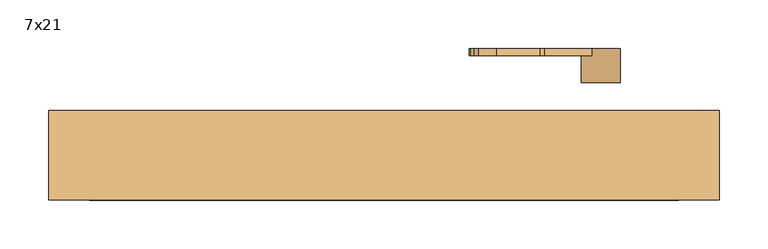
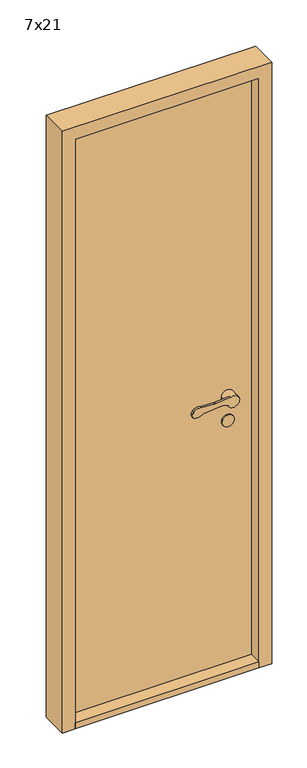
"""IFC4 building model written with IfcOpenShell, lengths in millimetres: door geometry, Innerdør Slett (Diplomat) : 7x21."""

from ifc_helpers import new_model, si_unit, point, frame, frame_2d, origin, origin_with_axes, place, context, project, spatial, polyline, circle_curve, trimmed, segment, composite_curve, outline, extrude, source, transform, mapped, element, save
from ifc_brep_helpers import plane_surface, cylinder_surface, revolved_surface, advanced_brep


def door_7x21_15e86ef2(model_context):
    return source(origin(), model_context, "Body", "SolidModel", [
        advanced_brep(
        [(243.9611305, -49.0, 949.1175955), (258.3841161, -49.0, 942.6204086), (296.379633, -49.0, 951.3474568), (267.2687793, -49.0, 969.1517356), (218.6891233, -49.0, 964.26032), (213.6202158, -49.0, 964.1804415), (168.8963175, -49.0, 967.2639242), (150.3175669, -49.0, 964.8810513), (145.505009, -49.0, 959.9624074), (141.8691983, -49.0, 951.8913379), (146.721536, -49.0, 938.7393398), (176.0476109, -49.0, 943.6260011), (238.8520664, -49.0, 949.9496913), (218.6891233, -41.8915284, 964.26032), (267.2687793, -41.8915284, 969.1517356), (256.379633, -41.8915284, 951.3474568), (258.3841161, -41.8915284, 942.6204086), (243.9611305, -41.8915284, 949.1175955), (238.8520664, -41.8915284, 949.9496913), (176.0476109, -41.8915284, 943.6260011), (146.721536, -41.8915284, 938.7393398), (141.8691983, -41.8915284, 951.8913379), (145.505009, -41.8915284, 959.9624074), (150.3175669, -41.8915284, 964.8810513), (168.8963175, -41.8915284, 967.2639242), (213.6202158, -41.8915284, 964.1804415), (296.379633, -14.0, 951.3474568), (256.379633, -14.0, 951.3474568)],
        [
            (0, 1),
            (1, 2, circle_curve(frame((276.379633, -49.0, 951.3474568), z_axis=(0.0, -1.0, 0.0), x_axis=(-1.0, 0.0, 0.0)), 20.0)),
            (2, 3, circle_curve(frame((276.379633, -49.0, 951.3474568), z_axis=(0.0, -1.0, 0.0), x_axis=(-1.0, 0.0, 0.0)), 20.0)),
            (3, 4),
            (4, 5, circle_curve(frame((215.683663, -49.0, 994.1093938), z_axis=(0.0, 1.0, 0.0), x_axis=(-0.9949691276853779, 0.0, -0.10018200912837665)), 30.0)),
            (5, 6),
            (6, 7, circle_curve(frame((163.2326797, -49.0, 937.8033877), z_axis=(0.0, -1.0, 0.0), x_axis=(-0.9949691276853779, 0.0, -0.10018200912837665)), 30.0)),
            (7, 8, circle_curve(frame((154.6226045, -49.0, 955.8551634), z_axis=(0.0, -1.0, 0.0), x_axis=(-0.9949691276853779, 0.0, -0.10018200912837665)), 10.0)),
            (8, 9),
            (9, 10, circle_curve(frame((150.9867937, -49.0, 947.7840939), z_axis=(0.0, -1.0, 0.0), x_axis=(-0.9949691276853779, 0.0, -0.10018200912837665)), 10.0)),
            (10, 11, circle_curve(frame((157.8569644, -49.0, 962.352734), z_axis=(0.0, -1.0, 0.0), x_axis=(-0.9949691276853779, 0.0, -0.10018200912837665)), 26.1072815)),
            (11, 12),
            (12, 0, circle_curve(frame((239.8538865, -49.0, 940.0), z_axis=(0.0, 1.0, 0.0), x_axis=(-0.9949691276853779, 0.0, -0.10018200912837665)), 10.0)),
            (13, 14),
            (14, 15, circle_curve(frame((276.379633, -41.8915284, 951.3474568), z_axis=(0.0, -1.0, 0.0), x_axis=(-1.0, 0.0, 0.0)), 20.0)),
            (15, 16, circle_curve(frame((276.379633, -41.8915284, 951.3474568), z_axis=(0.0, -1.0, 0.0), x_axis=(-1.0, 0.0, 0.0)), 20.0)),
            (16, 17),
            (17, 18, circle_curve(frame((239.8538865, -41.8915284, 940.0), z_axis=(0.0, -1.0, 0.0), x_axis=(-0.9949691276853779, 0.0, -0.10018200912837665)), 10.0)),
            (18, 19),
            (19, 20, circle_curve(frame((157.8569644, -41.8915284, 962.352734), z_axis=(0.0, 1.0, 0.0), x_axis=(-0.9949691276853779, 0.0, -0.10018200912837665)), 26.1072815)),
            (20, 21, circle_curve(frame((150.9867937, -41.8915284, 947.7840939), z_axis=(0.0, 1.0, 0.0), x_axis=(-0.9949691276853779, 0.0, -0.10018200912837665)), 10.0)),
            (21, 22),
            (22, 23, circle_curve(frame((154.6226045, -41.8915284, 955.8551634), z_axis=(0.0, 1.0, 0.0), x_axis=(-0.9949691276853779, 0.0, -0.10018200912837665)), 10.0)),
            (23, 24, circle_curve(frame((163.2326797, -41.8915284, 937.8033877), z_axis=(0.0, 1.0, 0.0), x_axis=(-0.9949691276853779, 0.0, -0.10018200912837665)), 30.0)),
            (24, 25),
            (25, 13, circle_curve(frame((215.683663, -41.8915284, 994.1093938), z_axis=(0.0, -1.0, 0.0), x_axis=(-0.9949691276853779, 0.0, -0.10018200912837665)), 30.0)),
            (3, 14),
            (13, 4),
            (16, 1),
            (0, 17),
            (12, 18),
            (11, 19),
            (10, 20),
            (9, 21),
            (8, 22),
            (7, 23),
            (6, 24),
            (5, 25),
            (26, 27, circle_curve(frame((276.379633, -14.0, 951.3474568), z_axis=(0.0, 1.0, 0.0), x_axis=(-1.0, 0.0, 0.0)), 20.0)),
            (27, 26, circle_curve(frame((276.379633, -14.0, 951.3474568), z_axis=(0.0, 1.0, 0.0), x_axis=(-1.0, 0.0, 0.0)), 20.0)),
            (26, 2),
            (15, 27),
        ],
        [
            plane_surface(frame((267.6960588, -49.0, 969.1947577), z_axis=(0.0, -1.0000000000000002, 0.0), x_axis=(0.9949691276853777, 0.0, 0.10018200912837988))),
            plane_surface(frame((267.6960588, -41.8915284, 969.1947577), z_axis=(0.0, 1.0000000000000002, 0.0), x_axis=(-0.9949691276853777, 0.0, -0.10018200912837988))),
            plane_surface(frame((218.6891233, -49.0, 964.26032), z_axis=(-0.10018200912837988, 0.0, 0.9949691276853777), x_axis=(0.0, 1.0, 0.0))),
            plane_surface(frame((276.9687366, -49.0, 934.2485115), z_axis=(-0.41072439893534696, 0.0, -0.91175954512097), x_axis=(0.0, 1.0, 0.0))),
            revolved_surface(polyline([(229.90419522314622, -41.8915284, 938.9981799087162), (229.90419522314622, -49.0, 938.9981799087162)]), (239.8538865, -41.8915284, 940.0), (0.0, 1.0, 0.0)),
            plane_surface(frame((238.8520664, -49.0, 949.9496913), z_axis=(0.10018200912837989, 0.0, -0.9949691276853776), x_axis=(0.0, 1.0, 0.0))),
            cylinder_surface(frame((157.8569644, -41.8915284, 962.352734), z_axis=(0.0, -1.0, 0.0), x_axis=(-0.9949691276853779, 0.0, -0.10018200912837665)), 26.1072815),
            cylinder_surface(frame((150.9867937, -41.8915284, 947.7840939), z_axis=(0.0, -1.0, 0.0), x_axis=(-0.9949691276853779, 0.0, -0.10018200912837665)), 10.0),
            plane_surface(frame((141.8691983, -49.0, 951.8913379), z_axis=(-0.9117595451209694, 0.0, 0.41072439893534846), x_axis=(0.0, 1.0, 0.0))),
            cylinder_surface(frame((154.6226045, -41.8915284, 955.8551634), z_axis=(0.0, -1.0, 0.0), x_axis=(-0.9949691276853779, 0.0, -0.10018200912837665)), 10.0),
            cylinder_surface(frame((163.2326797, -41.8915284, 937.8033877), z_axis=(0.0, -1.0, 0.0), x_axis=(-0.9949691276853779, 0.0, -0.10018200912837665)), 30.0),
            plane_surface(frame((168.8963175, -49.0, 967.2639242), z_axis=(0.06878157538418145, 0.0, 0.9976317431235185), x_axis=(0.0, 1.0, 0.0))),
            revolved_surface(polyline([(185.83458916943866, -41.8915284, 991.1039335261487), (185.83458916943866, -49.0, 991.1039335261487)]), (215.683663, -41.8915284, 994.1093938), (0.0, 1.0, 0.0)),
            plane_surface(frame((256.379633, -14.0, 951.3474568), z_axis=(0.0, 1.0, 0.0), x_axis=(0.0, 0.0, -1.0))),
            cylinder_surface(frame((276.379633, -14.0, 951.3474568), z_axis=(0.0, -1.0, 0.0), x_axis=(-1.0, 0.0, 0.0)), 20.0),
        ],
        [
            (0, [[1, 2, 3, 4, 5, 6, 7, 8, 9, 10, 11, 12, 13]]),
            (1, [[14, 15, 16, 17, 18, 19, 20, 21, 22, 23, 24, 25, 26]]),
            (2, [[-4, 27, -14, 28]]),
            (3, [[-17, 29, -1, 30]]),
            (4, [[31, -18, -30, -13]]),
            (5, [[32, -19, -31, -12]]),
            (6, [[33, -20, -32, -11]]),
            (7, [[34, -21, -33, -10]]),
            (8, [[35, -22, -34, -9]]),
            (9, [[36, -23, -35, -8]]),
            (10, [[37, -24, -36, -7]]),
            (11, [[38, -25, -37, -6]]),
            (12, [[-28, -26, -38, -5]]),
            (13, [[39, 40]]),
            (14, [[41, -2, -29, -16, 42, -39]]),
            (14, [[-42, -15, -27, -3, -41, -40]]),
        ],
    ),
        extrude(outline(composite_curve([segment(trimmed(circle_curve(frame_2d((866.3474568, 276.379633)), 20.0), [point((866.3474568, 296.379633))], [point((866.3474568, 256.379633))], False, "CARTESIAN"), True, "CONTINUOUS"), segment(trimmed(circle_curve(frame_2d((866.3474568, 276.379633)), 20.0), [point((866.3474568, 256.379633))], [point((866.3474568, 296.379633))], False, "CARTESIAN"), True, "CONTINUOUS")], self_intersect=False)), frame((0.0, -19.0, 0.0), z_axis=(0.0, 1.0, 0.0), x_axis=(0.0, 0.0, 1.0)), (0.0, 0.0, 1.0), 5.0),
        advanced_brep(
        [(243.9611305, 100.0, 949.1175955), (238.8520664, 100.0, 949.9496913), (176.0476109, 100.0, 943.6260011), (146.721536, 100.0, 938.7393398), (141.8691983, 100.0, 951.8913379), (145.505009, 100.0, 959.9624074), (150.3175669, 100.0, 964.8810513), (168.8963175, 100.0, 967.2639242), (213.6202158, 100.0, 964.1804415), (218.6891233, 100.0, 964.26032), (267.2687793, 100.0, 969.1517356), (296.379633, 100.0, 951.3474568), (258.3841161, 100.0, 942.6204086), (218.6891233, 92.8915284, 964.26032), (213.6202158, 92.8915284, 964.1804415), (168.8963175, 92.8915284, 967.2639242), (150.3175669, 92.8915284, 964.8810513), (145.505009, 92.8915284, 959.9624074), (141.8691983, 92.8915284, 951.8913379), (146.721536, 92.8915284, 938.7393398), (176.0476109, 92.8915284, 943.6260011), (238.8520664, 92.8915284, 949.9496913), (243.9611305, 92.8915284, 949.1175955), (258.3841161, 92.8915284, 942.6204086), (256.379633, 92.8915284, 951.3474568), (267.2687793, 92.8915284, 969.1517356), (296.379633, 65.0, 951.3474568), (256.379633, 65.0, 951.3474568)],
        [
            (0, 1, circle_curve(frame((239.8538865, 100.0, 940.0), z_axis=(0.0, -1.0, 0.0), x_axis=(-0.9949691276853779, 0.0, -0.10018200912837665)), 10.0)),
            (1, 2),
            (2, 3, circle_curve(frame((157.8569644, 100.0, 962.352734), z_axis=(0.0, 1.0, 0.0), x_axis=(-0.9949691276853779, 0.0, -0.10018200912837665)), 26.1072815)),
            (3, 4, circle_curve(frame((150.9867937, 100.0, 947.7840939), z_axis=(0.0, 1.0, 0.0), x_axis=(-0.9949691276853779, 0.0, -0.10018200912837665)), 10.0)),
            (4, 5),
            (5, 6, circle_curve(frame((154.6226045, 100.0, 955.8551634), z_axis=(0.0, 1.0, 0.0), x_axis=(-0.9949691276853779, 0.0, -0.10018200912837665)), 10.0)),
            (6, 7, circle_curve(frame((163.2326797, 100.0, 937.8033877), z_axis=(0.0, 1.0, 0.0), x_axis=(-0.9949691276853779, 0.0, -0.10018200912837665)), 30.0)),
            (7, 8),
            (8, 9, circle_curve(frame((215.683663, 100.0, 994.1093938), z_axis=(0.0, -1.0, 0.0), x_axis=(-0.9949691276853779, 0.0, -0.10018200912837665)), 30.0)),
            (9, 10),
            (10, 11, circle_curve(frame((276.379633, 100.0, 951.3474568), z_axis=(0.0, 1.0, 0.0), x_axis=(-1.0, 0.0, 0.0)), 20.0)),
            (11, 12, circle_curve(frame((276.379633, 100.0, 951.3474568), z_axis=(0.0, 1.0, 0.0), x_axis=(-1.0, 0.0, 0.0)), 20.0)),
            (12, 0),
            (13, 14, circle_curve(frame((215.683663, 92.8915284, 994.1093938), z_axis=(0.0, 1.0, 0.0), x_axis=(-0.9949691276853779, 0.0, -0.10018200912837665)), 30.0)),
            (14, 15),
            (15, 16, circle_curve(frame((163.2326797, 92.8915284, 937.8033877), z_axis=(0.0, -1.0, 0.0), x_axis=(-0.9949691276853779, 0.0, -0.10018200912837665)), 30.0)),
            (16, 17, circle_curve(frame((154.6226045, 92.8915284, 955.8551634), z_axis=(0.0, -1.0, 0.0), x_axis=(-0.9949691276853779, 0.0, -0.10018200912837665)), 10.0)),
            (17, 18),
            (18, 19, circle_curve(frame((150.9867937, 92.8915284, 947.7840939), z_axis=(0.0, -1.0, 0.0), x_axis=(-0.9949691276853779, 0.0, -0.10018200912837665)), 10.0)),
            (19, 20, circle_curve(frame((157.8569644, 92.8915284, 962.352734), z_axis=(0.0, -1.0, 0.0), x_axis=(-0.9949691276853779, 0.0, -0.10018200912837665)), 26.1072815)),
            (20, 21),
            (21, 22, circle_curve(frame((239.8538865, 92.8915284, 940.0), z_axis=(0.0, 1.0, 0.0), x_axis=(-0.9949691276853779, 0.0, -0.10018200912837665)), 10.0)),
            (22, 23),
            (23, 24, circle_curve(frame((276.379633, 92.8915284, 951.3474568), z_axis=(0.0, 1.0, 0.0), x_axis=(-1.0, 0.0, 0.0)), 20.0)),
            (24, 25, circle_curve(frame((276.379633, 92.8915284, 951.3474568), z_axis=(0.0, 1.0, 0.0), x_axis=(-1.0, 0.0, 0.0)), 20.0)),
            (25, 13),
            (9, 13),
            (25, 10),
            (22, 0),
            (12, 23),
            (21, 1),
            (20, 2),
            (19, 3),
            (18, 4),
            (17, 5),
            (16, 6),
            (15, 7),
            (14, 8),
            (26, 27, circle_curve(frame((276.379633, 65.0, 951.3474568), z_axis=(0.0, -1.0, 0.0), x_axis=(-1.0, 0.0, 0.0)), 20.0)),
            (27, 26, circle_curve(frame((276.379633, 65.0, 951.3474568), z_axis=(0.0, -1.0, 0.0), x_axis=(-1.0, 0.0, 0.0)), 20.0)),
            (27, 24),
            (11, 26),
        ],
        [
            plane_surface(frame((267.6960588, 100.0, 969.1947577), z_axis=(0.0, 1.0000000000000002, 0.0), x_axis=(0.9949691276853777, 0.0, 0.10018200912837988))),
            plane_surface(frame((267.6960588, 92.8915284, 969.1947577), z_axis=(0.0, -1.0000000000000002, 0.0), x_axis=(-0.9949691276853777, 0.0, -0.10018200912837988))),
            plane_surface(frame((218.6891233, 100.0, 964.26032), z_axis=(-0.10018200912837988, 0.0, 0.9949691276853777), x_axis=(0.0, -1.0, 0.0))),
            plane_surface(frame((276.9687366, 100.0, 934.2485115), z_axis=(-0.41072439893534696, 0.0, -0.91175954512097), x_axis=(0.0, -1.0, 0.0))),
            revolved_surface(polyline([(229.90419522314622, 92.8915284, 938.9981799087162), (229.90419522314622, 100.0, 938.9981799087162)]), (239.8538865, 92.8915284, 940.0), (0.0, -1.0, 0.0)),
            plane_surface(frame((238.8520664, 100.0, 949.9496913), z_axis=(0.10018200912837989, 0.0, -0.9949691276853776), x_axis=(0.0, -1.0, 0.0))),
            cylinder_surface(frame((157.8569644, 92.8915284, 962.352734), z_axis=(0.0, 1.0, 0.0), x_axis=(-0.9949691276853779, 0.0, -0.10018200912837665)), 26.1072815),
            cylinder_surface(frame((150.9867937, 92.8915284, 947.7840939), z_axis=(0.0, 1.0, 0.0), x_axis=(-0.9949691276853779, 0.0, -0.10018200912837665)), 10.0),
            plane_surface(frame((141.8691983, 100.0, 951.8913379), z_axis=(-0.9117595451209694, 0.0, 0.41072439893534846), x_axis=(0.0, -1.0, 0.0))),
            cylinder_surface(frame((154.6226045, 92.8915284, 955.8551634), z_axis=(0.0, 1.0, 0.0), x_axis=(-0.9949691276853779, 0.0, -0.10018200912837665)), 10.0),
            cylinder_surface(frame((163.2326797, 92.8915284, 937.8033877), z_axis=(0.0, 1.0, 0.0), x_axis=(-0.9949691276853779, 0.0, -0.10018200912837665)), 30.0),
            plane_surface(frame((168.8963175, 100.0, 967.2639242), z_axis=(0.06878157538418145, 0.0, 0.9976317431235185), x_axis=(0.0, -1.0, 0.0))),
            revolved_surface(polyline([(185.83458916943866, 92.8915284, 991.1039335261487), (185.83458916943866, 100.0, 991.1039335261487)]), (215.683663, 92.8915284, 994.1093938), (0.0, -1.0, 0.0)),
            plane_surface(frame((256.379633, 65.0, 951.3474568), z_axis=(0.0, -1.0, 0.0), x_axis=(0.0, 0.0, -1.0))),
            cylinder_surface(frame((276.379633, 65.0, 951.3474568), z_axis=(0.0, 1.0, 0.0), x_axis=(-1.0, 0.0, 0.0)), 20.0),
        ],
        [
            (0, [[1, 2, 3, 4, 5, 6, 7, 8, 9, 10, 11, 12, 13]]),
            (1, [[14, 15, 16, 17, 18, 19, 20, 21, 22, 23, 24, 25, 26]]),
            (2, [[27, -26, 28, -10]]),
            (3, [[29, -13, 30, -23]]),
            (4, [[-1, -29, -22, 31]]),
            (5, [[-2, -31, -21, 32]]),
            (6, [[-3, -32, -20, 33]]),
            (7, [[-4, -33, -19, 34]]),
            (8, [[-5, -34, -18, 35]]),
            (9, [[-6, -35, -17, 36]]),
            (10, [[-7, -36, -16, 37]]),
            (11, [[-8, -37, -15, 38]]),
            (12, [[-9, -38, -14, -27]]),
            (13, [[39, 40]]),
            (14, [[-40, 41, -24, -30, -12, 42]]),
            (14, [[-39, -42, -11, -28, -25, -41]]),
        ],
    ),
        extrude(outline(composite_curve([segment(trimmed(circle_curve(frame_2d((866.3474568, 276.379633)), 20.0), [point((866.3474568, 296.379633))], [point((866.3474568, 256.379633))], False, "CARTESIAN"), True, "CONTINUOUS"), segment(trimmed(circle_curve(frame_2d((866.3474568, 276.379633)), 20.0), [point((866.3474568, 256.379633))], [point((866.3474568, 296.379633))], False, "CARTESIAN"), True, "CONTINUOUS")], self_intersect=False)), frame((0.0, 65.0, 0.0), z_axis=(0.0, 1.0, 0.0), x_axis=(0.0, 0.0, 1.0)), (0.0, 0.0, 1.0), 5.0),
        extrude(outline(polyline([(356.379633, -56.0), (-249.620367, -56.0), (-249.620367, 36.0), (356.379633, 36.0), (356.379633, -56.0)])), origin_with_axes(), (0.0, 0.0, 1.0), 22.0),
        extrude(outline(polyline([(356.379633, -14.0), (-249.620367, -14.0), (-249.620367, 36.0), (356.379633, 36.0), (356.379633, -14.0)])), frame((0.0, 0.0, 22.0), z_axis=(0.0, 0.0, 1.0), x_axis=(1.0, 0.0, 0.0)), (0.0, 0.0, 1.0), 2031.0),
        extrude(outline(polyline([(0.0, -291.620367), (0.0, -249.620367), (2053.0, -249.620367), (2053.0, 356.379633), (0.0, 356.379633), (0.0, 398.379633), (2095.0, 398.379633), (2095.0, -291.620367), (0.0, -291.620367)])), frame((0.0, -56.0, 0.0), z_axis=(0.0, 1.0, 0.0), x_axis=(0.0, 0.0, 1.0)), (0.0, 0.0, 1.0), 92.0),
    ])


if __name__ == "__main__":
    model = new_model("IFC4")
    model_context = context("Model", 3, world=origin())
    ifc_project = project(units=[si_unit("LENGTHUNIT", "METRE", prefix="MILLI")], contexts=[model_context])
    site = spatial("IfcSite", under=ifc_project)
    building = spatial("IfcBuilding", under=site)
    placement = place(None, origin())
    door_7x21_shape = door_7x21_15e86ef2(model_context)
    element("IfcDoor", 1, ObjectType="Innerdør Slett (Diplomat) : 7x21", at=placement, inside=building, context=model_context, shape_type="MappedRepresentation", body=[
        mapped(door_7x21_shape, transform((0.0, 0.0, 0.0), x_axis=(1.0, 0.0, 0.0), y_axis=(0.0, 1.0, 0.0), z_axis=(0.0, 0.0, 1.0))),
    ])
    save(model, "model.ifc")
